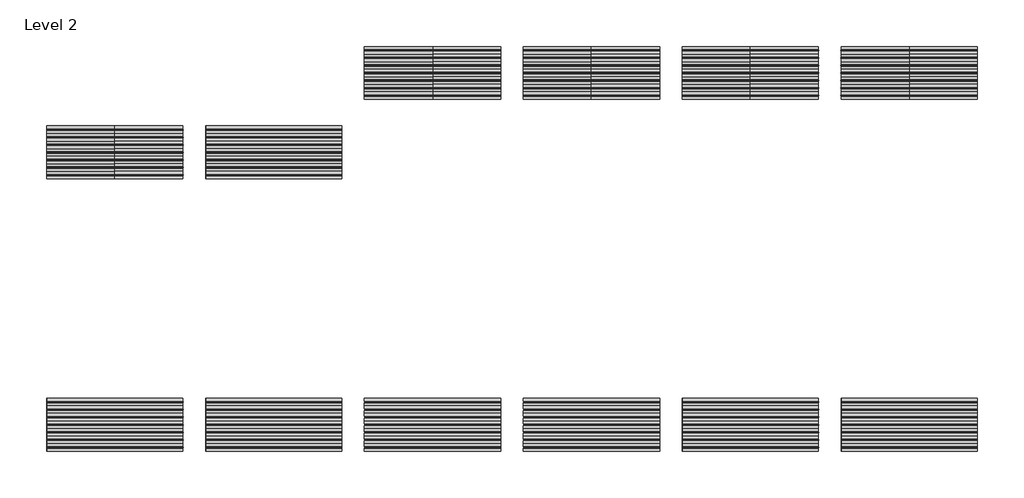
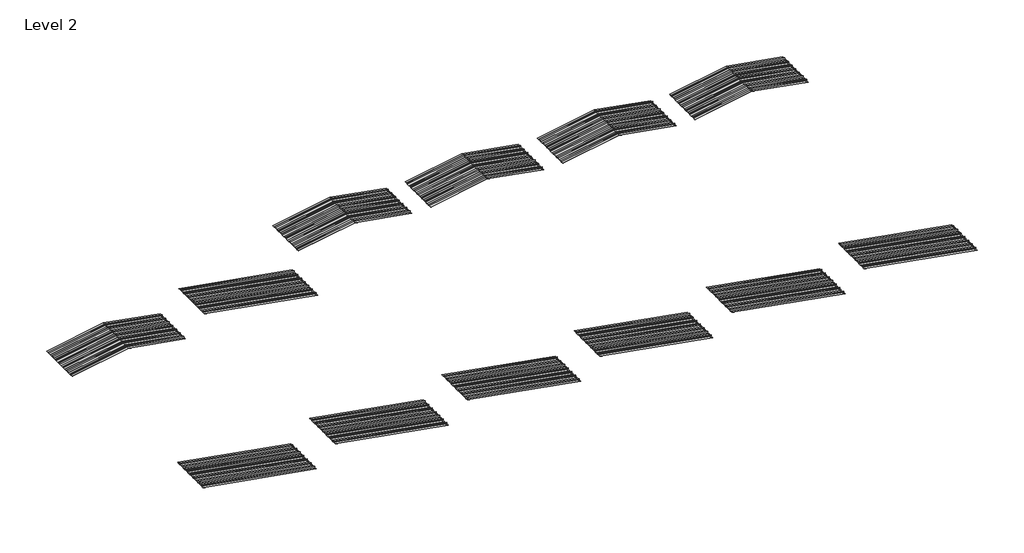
# One storey: 119 members.
"""IFC4 building model written with IfcOpenShell, lengths in millimetres."""

from ifc_helpers import new_model, si_unit, origin, place, context, project, spatial, transform, mapped, element, save
from components import rectangular_mullion_85015836, rectangular_mullion_79018d10

model = new_model("IFC4")

# Units and contexts
model_context = context("Model", 3, world=origin())
ifc_project = project(units=[si_unit("LENGTHUNIT", "METRE", prefix="MILLI")], contexts=[model_context])

# Site, building, storey
site = spatial("IfcSite", under=ifc_project)
building = spatial("IfcBuilding", under=site)
storey = spatial("IfcBuildingStorey", under=building, Name="Level 2", Elevation=4000.0)

# Members
placement = place(None, origin())
rectangular_mullion_shape = rectangular_mullion_85015836(model_context)
element("IfcMember", 1, ObjectType="Rectangular Mullion : Parisienne 1000 - Metal - AZURO 0102", at=placement, inside=storey, context=model_context, shape_type="MappedRepresentation", body=[
    mapped(rectangular_mullion_shape, transform((-24442.9704237, 40272.7785953, 546.6136402), x_axis=(0.0, 1.0, 0.0), y_axis=(-0.1736481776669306, 0.0, -0.9848077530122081), z_axis=(-0.9848077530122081, 0.0, 0.1736481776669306))),
])
element("IfcMember", 2, ObjectType="Rectangular Mullion : Parisienne 1000 - Metal - AZURO 0102", at=placement, inside=storey, context=model_context, shape_type="MappedRepresentation", body=[
    mapped(rectangular_mullion_shape, transform((-24442.9704237, 40605.7785953, 546.6136402), x_axis=(0.0, 1.0, 0.0), y_axis=(-0.1736481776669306, 0.0, -0.9848077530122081), z_axis=(-0.9848077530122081, 0.0, 0.1736481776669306))),
])
element("IfcMember", 3, ObjectType="Rectangular Mullion : Parisienne 1000 - Metal - AZURO 0102", at=placement, inside=storey, context=model_context, shape_type="MappedRepresentation", body=[
    mapped(rectangular_mullion_shape, transform((-24442.9704237, 40938.7785953, 546.6136402), x_axis=(0.0, 1.0, 0.0), y_axis=(-0.17364817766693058, 0.0, -0.9848077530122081), z_axis=(-0.9848077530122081, 0.0, 0.17364817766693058))),
])
element("IfcMember", 4, ObjectType="Rectangular Mullion : Parisienne 1000 - Metal - AZURO 0102", at=placement, inside=storey, context=model_context, shape_type="MappedRepresentation", body=[
    mapped(rectangular_mullion_shape, transform((-24442.9704237, 41271.7785953, 546.6136402), x_axis=(0.0, 1.0, 0.0), y_axis=(-0.17364817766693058, 0.0, -0.9848077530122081), z_axis=(-0.9848077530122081, 0.0, 0.17364817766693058))),
])
element("IfcMember", 5, ObjectType="Rectangular Mullion : Parisienne 1000 - Metal - AZURO 0102", at=placement, inside=storey, context=model_context, shape_type="MappedRepresentation", body=[
    mapped(rectangular_mullion_shape, transform((-24442.9704237, 41604.7785953, 546.6136402), x_axis=(0.0, 1.0, 0.0), y_axis=(-0.17364817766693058, 0.0, -0.9848077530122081), z_axis=(-0.9848077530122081, 0.0, 0.17364817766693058))),
])
element("IfcMember", 6, ObjectType="Rectangular Mullion : Parisienne 1000 - Metal - AZURO 0102", at=placement, inside=storey, context=model_context, shape_type="MappedRepresentation", body=[
    mapped(rectangular_mullion_shape, transform((-24442.9704237, 41937.7785953, 546.6136402), x_axis=(0.0, 1.0, 0.0), y_axis=(-0.17364817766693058, 0.0, -0.9848077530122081), z_axis=(-0.9848077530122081, 0.0, 0.17364817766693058))),
])
element("IfcMember", 7, ObjectType="Rectangular Mullion : Parisienne 1000 - Metal - AZURO 0102", at=placement, inside=storey, context=model_context, shape_type="MappedRepresentation", body=[
    mapped(rectangular_mullion_shape, transform((-24442.9704237, 42270.7785953, 546.6136402), x_axis=(0.0, -1.0, 0.0), y_axis=(0.1736481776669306, 0.0, -0.9848077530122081), z_axis=(0.9848077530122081, 0.0, 0.1736481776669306))),
])
element("IfcMember", 8, ObjectType="Rectangular Mullion : Parisienne 1000 - Metal - AZURO 0102", at=placement, inside=storey, context=model_context, shape_type="MappedRepresentation", body=[
    mapped(rectangular_mullion_shape, transform((-24442.9704237, 41937.7785953, 546.6136402), x_axis=(0.0, -1.0, 0.0), y_axis=(0.1736481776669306, 0.0, -0.9848077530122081), z_axis=(0.9848077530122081, 0.0, 0.1736481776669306))),
])
element("IfcMember", 9, ObjectType="Rectangular Mullion : Parisienne 1000 - Metal - AZURO 0102", at=placement, inside=storey, context=model_context, shape_type="MappedRepresentation", body=[
    mapped(rectangular_mullion_shape, transform((-24442.9704237, 41604.7785953, 546.6136402), x_axis=(0.0, -1.0, 0.0), y_axis=(0.17364817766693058, 0.0, -0.9848077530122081), z_axis=(0.9848077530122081, 0.0, 0.17364817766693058))),
])
element("IfcMember", 10, ObjectType="Rectangular Mullion : Parisienne 1000 - Metal - AZURO 0102", at=placement, inside=storey, context=model_context, shape_type="MappedRepresentation", body=[
    mapped(rectangular_mullion_shape, transform((-24442.9704237, 41271.7785953, 546.6136402), x_axis=(0.0, -1.0, 0.0), y_axis=(0.17364817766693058, 0.0, -0.9848077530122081), z_axis=(0.9848077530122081, 0.0, 0.17364817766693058))),
])
element("IfcMember", 11, ObjectType="Rectangular Mullion : Parisienne 1000 - Metal - AZURO 0102", at=placement, inside=storey, context=model_context, shape_type="MappedRepresentation", body=[
    mapped(rectangular_mullion_shape, transform((-24442.9704237, 40938.7785953, 546.6136402), x_axis=(0.0, -1.0, 0.0), y_axis=(0.17364817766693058, 0.0, -0.9848077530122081), z_axis=(0.9848077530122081, 0.0, 0.17364817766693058))),
])
element("IfcMember", 12, ObjectType="Rectangular Mullion : Parisienne 1000 - Metal - AZURO 0102", at=placement, inside=storey, context=model_context, shape_type="MappedRepresentation", body=[
    mapped(rectangular_mullion_shape, transform((-24442.9704237, 40605.7785953, 546.6136402), x_axis=(0.0, -1.0, 0.0), y_axis=(0.17364817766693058, 0.0, -0.9848077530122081), z_axis=(0.9848077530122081, 0.0, 0.17364817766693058))),
])
element("IfcMember", 13, ObjectType="Rectangular Mullion : Parisienne 1000 - Metal - AZURO 0102", at=placement, inside=storey, context=model_context, shape_type="MappedRepresentation", body=[
    mapped(rectangular_mullion_shape, transform((-24442.9704237, 40272.7785953, 546.6136402), x_axis=(0.0, -1.0, 0.0), y_axis=(0.17364817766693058, 0.0, -0.9848077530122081), z_axis=(0.9848077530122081, 0.0, 0.17364817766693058))),
])
element("IfcMember", 14, ObjectType="Rectangular Mullion : Parisienne 1000 - Metal - AZURO 0102", at=placement, inside=storey, context=model_context, shape_type="MappedRepresentation", body=[
    mapped(rectangular_mullion_shape, transform((-24442.9704237, 42270.7785953, 546.6136402), x_axis=(0.0, 1.0, 0.0), y_axis=(-0.17364817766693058, 0.0, -0.9848077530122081), z_axis=(-0.9848077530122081, 0.0, 0.17364817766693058))),
])
element("IfcMember", 15, ObjectType="Rectangular Mullion : Parisienne 1000 - Metal - AZURO 0102", at=placement, inside=storey, context=model_context, shape_type="MappedRepresentation", body=[
    mapped(rectangular_mullion_shape, transform((-10442.9704237, 43772.7785953, 546.6136402), x_axis=(0.0, 1.0, 0.0), y_axis=(-0.17364817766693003, 0.0, -0.9848077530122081), z_axis=(-0.9848077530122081, 0.0, 0.17364817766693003))),
])
element("IfcMember", 16, ObjectType="Rectangular Mullion : Parisienne 1000 - Metal - AZURO 0102", at=placement, inside=storey, context=model_context, shape_type="MappedRepresentation", body=[
    mapped(rectangular_mullion_shape, transform((-10442.9704237, 44105.7785953, 546.6136402), x_axis=(0.0, 1.0, 0.0), y_axis=(-0.17364817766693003, 0.0, -0.9848077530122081), z_axis=(-0.9848077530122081, 0.0, 0.17364817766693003))),
])
element("IfcMember", 17, ObjectType="Rectangular Mullion : Parisienne 1000 - Metal - AZURO 0102", at=placement, inside=storey, context=model_context, shape_type="MappedRepresentation", body=[
    mapped(rectangular_mullion_shape, transform((-10442.9704237, 44438.7785953, 546.6136402), x_axis=(0.0, 1.0, 0.0), y_axis=(-0.17364817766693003, 0.0, -0.9848077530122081), z_axis=(-0.9848077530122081, 0.0, 0.17364817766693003))),
])
element("IfcMember", 18, ObjectType="Rectangular Mullion : Parisienne 1000 - Metal - AZURO 0102", at=placement, inside=storey, context=model_context, shape_type="MappedRepresentation", body=[
    mapped(rectangular_mullion_shape, transform((-10442.9704237, 44771.7785953, 546.6136402), x_axis=(0.0, 1.0, 0.0), y_axis=(-0.17364817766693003, 0.0, -0.9848077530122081), z_axis=(-0.9848077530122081, 0.0, 0.17364817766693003))),
])
element("IfcMember", 19, ObjectType="Rectangular Mullion : Parisienne 1000 - Metal - AZURO 0102", at=placement, inside=storey, context=model_context, shape_type="MappedRepresentation", body=[
    mapped(rectangular_mullion_shape, transform((-10442.9704237, 45104.7785953, 546.6136402), x_axis=(0.0, 1.0, 0.0), y_axis=(-0.17364817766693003, 0.0, -0.9848077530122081), z_axis=(-0.9848077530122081, 0.0, 0.17364817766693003))),
])
element("IfcMember", 20, ObjectType="Rectangular Mullion : Parisienne 1000 - Metal - AZURO 0102", at=placement, inside=storey, context=model_context, shape_type="MappedRepresentation", body=[
    mapped(rectangular_mullion_shape, transform((-10442.9704237, 45437.7785953, 546.6136402), x_axis=(0.0, 1.0, 0.0), y_axis=(-0.17364817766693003, 0.0, -0.9848077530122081), z_axis=(-0.9848077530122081, 0.0, 0.17364817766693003))),
])
element("IfcMember", 21, ObjectType="Rectangular Mullion : Parisienne 1000 - Metal - AZURO 0102", at=placement, inside=storey, context=model_context, shape_type="MappedRepresentation", body=[
    mapped(rectangular_mullion_shape, transform((-10442.9704237, 45770.7785953, 546.6136402), x_axis=(0.0, -1.0, 0.0), y_axis=(0.1736481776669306, 0.0, -0.984807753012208), z_axis=(0.984807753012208, 0.0, 0.1736481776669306))),
])
element("IfcMember", 22, ObjectType="Rectangular Mullion : Parisienne 1000 - Metal - AZURO 0102", at=placement, inside=storey, context=model_context, shape_type="MappedRepresentation", body=[
    mapped(rectangular_mullion_shape, transform((-10442.9704237, 45437.7785953, 546.6136402), x_axis=(0.0, -1.0, 0.0), y_axis=(0.1736481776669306, 0.0, -0.984807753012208), z_axis=(0.984807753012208, 0.0, 0.1736481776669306))),
])
element("IfcMember", 23, ObjectType="Rectangular Mullion : Parisienne 1000 - Metal - AZURO 0102", at=placement, inside=storey, context=model_context, shape_type="MappedRepresentation", body=[
    mapped(rectangular_mullion_shape, transform((-10442.9704237, 45104.7785953, 546.6136402), x_axis=(0.0, -1.0, 0.0), y_axis=(0.1736481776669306, 0.0, -0.984807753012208), z_axis=(0.984807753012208, 0.0, 0.1736481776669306))),
])
element("IfcMember", 24, ObjectType="Rectangular Mullion : Parisienne 1000 - Metal - AZURO 0102", at=placement, inside=storey, context=model_context, shape_type="MappedRepresentation", body=[
    mapped(rectangular_mullion_shape, transform((-10442.9704237, 44771.7785953, 546.6136402), x_axis=(0.0, -1.0, 0.0), y_axis=(0.1736481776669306, 0.0, -0.984807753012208), z_axis=(0.984807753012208, 0.0, 0.1736481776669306))),
])
element("IfcMember", 25, ObjectType="Rectangular Mullion : Parisienne 1000 - Metal - AZURO 0102", at=placement, inside=storey, context=model_context, shape_type="MappedRepresentation", body=[
    mapped(rectangular_mullion_shape, transform((-10442.9704237, 44438.7785953, 546.6136402), x_axis=(0.0, -1.0, 0.0), y_axis=(0.17364817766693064, 0.0, -0.984807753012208), z_axis=(0.984807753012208, 0.0, 0.17364817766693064))),
])
element("IfcMember", 26, ObjectType="Rectangular Mullion : Parisienne 1000 - Metal - AZURO 0102", at=placement, inside=storey, context=model_context, shape_type="MappedRepresentation", body=[
    mapped(rectangular_mullion_shape, transform((-10442.9704237, 44105.7785953, 546.6136402), x_axis=(0.0, -1.0, 0.0), y_axis=(0.1736481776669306, 0.0, -0.984807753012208), z_axis=(0.984807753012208, 0.0, 0.1736481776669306))),
])
element("IfcMember", 27, ObjectType="Rectangular Mullion : Parisienne 1000 - Metal - AZURO 0102", at=placement, inside=storey, context=model_context, shape_type="MappedRepresentation", body=[
    mapped(rectangular_mullion_shape, transform((-10442.9704237, 43772.7785953, 546.6136402), x_axis=(0.0, -1.0, 0.0), y_axis=(0.1736481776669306, 0.0, -0.984807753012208), z_axis=(0.984807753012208, 0.0, 0.1736481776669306))),
])
element("IfcMember", 28, ObjectType="Rectangular Mullion : Parisienne 1000 - Metal - AZURO 0102", at=placement, inside=storey, context=model_context, shape_type="MappedRepresentation", body=[
    mapped(rectangular_mullion_shape, transform((-10442.9704237, 45770.7785953, 546.6136402), x_axis=(0.0, 1.0, 0.0), y_axis=(-0.17364817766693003, 0.0, -0.9848077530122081), z_axis=(-0.9848077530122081, 0.0, 0.17364817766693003))),
])
element("IfcMember", 29, ObjectType="Rectangular Mullion : Parisienne 1000 - Metal - AZURO 0102", at=placement, inside=storey, context=model_context, shape_type="MappedRepresentation", body=[
    mapped(rectangular_mullion_shape, transform((-3442.9704237, 43772.7785953, 546.6136402), x_axis=(0.0, 1.0, 0.0), y_axis=(-0.1736481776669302, 0.0, -0.9848077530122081), z_axis=(-0.984807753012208, 0.0, 0.17364817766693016))),
])
element("IfcMember", 30, ObjectType="Rectangular Mullion : Parisienne 1000 - Metal - AZURO 0102", at=placement, inside=storey, context=model_context, shape_type="MappedRepresentation", body=[
    mapped(rectangular_mullion_shape, transform((-3442.9704237, 44105.7785953, 546.6136402), x_axis=(0.0, 1.0, 0.0), y_axis=(-0.1736481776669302, 0.0, -0.9848077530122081), z_axis=(-0.984807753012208, 0.0, 0.17364817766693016))),
])
element("IfcMember", 31, ObjectType="Rectangular Mullion : Parisienne 1000 - Metal - AZURO 0102", at=placement, inside=storey, context=model_context, shape_type="MappedRepresentation", body=[
    mapped(rectangular_mullion_shape, transform((-3442.9704237, 44438.7785953, 546.6136402), x_axis=(0.0, 1.0, 0.0), y_axis=(-0.1736481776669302, 0.0, -0.9848077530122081), z_axis=(-0.984807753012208, 0.0, 0.17364817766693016))),
])
element("IfcMember", 32, ObjectType="Rectangular Mullion : Parisienne 1000 - Metal - AZURO 0102", at=placement, inside=storey, context=model_context, shape_type="MappedRepresentation", body=[
    mapped(rectangular_mullion_shape, transform((-3442.9704237, 44771.7785953, 546.6136402), x_axis=(0.0, 1.0, 0.0), y_axis=(-0.1736481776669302, 0.0, -0.9848077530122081), z_axis=(-0.984807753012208, 0.0, 0.17364817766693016))),
])
element("IfcMember", 33, ObjectType="Rectangular Mullion : Parisienne 1000 - Metal - AZURO 0102", at=placement, inside=storey, context=model_context, shape_type="MappedRepresentation", body=[
    mapped(rectangular_mullion_shape, transform((-3442.9704237, 45104.7785953, 546.6136402), x_axis=(0.0, 1.0, 0.0), y_axis=(-0.1736481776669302, 0.0, -0.9848077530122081), z_axis=(-0.984807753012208, 0.0, 0.17364817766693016))),
])
element("IfcMember", 34, ObjectType="Rectangular Mullion : Parisienne 1000 - Metal - AZURO 0102", at=placement, inside=storey, context=model_context, shape_type="MappedRepresentation", body=[
    mapped(rectangular_mullion_shape, transform((-3442.9704237, 45437.7785953, 546.6136402), x_axis=(0.0, 1.0, 0.0), y_axis=(-0.1736481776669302, 0.0, -0.9848077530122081), z_axis=(-0.984807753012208, 0.0, 0.17364817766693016))),
])
element("IfcMember", 35, ObjectType="Rectangular Mullion : Parisienne 1000 - Metal - AZURO 0102", at=placement, inside=storey, context=model_context, shape_type="MappedRepresentation", body=[
    mapped(rectangular_mullion_shape, transform((-3442.9704237, 45770.7785953, 546.6136402), x_axis=(0.0, -1.0, 0.0), y_axis=(0.17364817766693, 0.0, -0.9848077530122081), z_axis=(0.9848077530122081, 0.0, 0.17364817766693))),
])
element("IfcMember", 36, ObjectType="Rectangular Mullion : Parisienne 1000 - Metal - AZURO 0102", at=placement, inside=storey, context=model_context, shape_type="MappedRepresentation", body=[
    mapped(rectangular_mullion_shape, transform((-3442.9704237, 45437.7785953, 546.6136402), x_axis=(0.0, -1.0, 0.0), y_axis=(0.17364817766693, 0.0, -0.9848077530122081), z_axis=(0.9848077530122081, 0.0, 0.17364817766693))),
])
element("IfcMember", 37, ObjectType="Rectangular Mullion : Parisienne 1000 - Metal - AZURO 0102", at=placement, inside=storey, context=model_context, shape_type="MappedRepresentation", body=[
    mapped(rectangular_mullion_shape, transform((-3442.9704237, 45104.7785953, 546.6136402), x_axis=(0.0, -1.0, 0.0), y_axis=(0.17364817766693, 0.0, -0.9848077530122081), z_axis=(0.9848077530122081, 0.0, 0.17364817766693))),
])
element("IfcMember", 38, ObjectType="Rectangular Mullion : Parisienne 1000 - Metal - AZURO 0102", at=placement, inside=storey, context=model_context, shape_type="MappedRepresentation", body=[
    mapped(rectangular_mullion_shape, transform((-3442.9704237, 44771.7785953, 546.6136402), x_axis=(0.0, -1.0, 0.0), y_axis=(0.17364817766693, 0.0, -0.9848077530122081), z_axis=(0.9848077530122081, 0.0, 0.17364817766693))),
])
element("IfcMember", 39, ObjectType="Rectangular Mullion : Parisienne 1000 - Metal - AZURO 0102", at=placement, inside=storey, context=model_context, shape_type="MappedRepresentation", body=[
    mapped(rectangular_mullion_shape, transform((-3442.9704237, 44438.7785953, 546.6136402), x_axis=(0.0, -1.0, 0.0), y_axis=(0.17364817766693, 0.0, -0.9848077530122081), z_axis=(0.9848077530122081, 0.0, 0.17364817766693))),
])
element("IfcMember", 40, ObjectType="Rectangular Mullion : Parisienne 1000 - Metal - AZURO 0102", at=placement, inside=storey, context=model_context, shape_type="MappedRepresentation", body=[
    mapped(rectangular_mullion_shape, transform((-3442.9704237, 44105.7785953, 546.6136402), x_axis=(0.0, -1.0, 0.0), y_axis=(0.17364817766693, 0.0, -0.9848077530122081), z_axis=(0.9848077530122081, 0.0, 0.17364817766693))),
])
element("IfcMember", 41, ObjectType="Rectangular Mullion : Parisienne 1000 - Metal - AZURO 0102", at=placement, inside=storey, context=model_context, shape_type="MappedRepresentation", body=[
    mapped(rectangular_mullion_shape, transform((-3442.9704237, 43772.7785953, 546.6136402), x_axis=(0.0, -1.0, 0.0), y_axis=(0.17364817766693, 0.0, -0.9848077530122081), z_axis=(0.9848077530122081, 0.0, 0.17364817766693))),
])
element("IfcMember", 42, ObjectType="Rectangular Mullion : Parisienne 1000 - Metal - AZURO 0102", at=placement, inside=storey, context=model_context, shape_type="MappedRepresentation", body=[
    mapped(rectangular_mullion_shape, transform((-3442.9704237, 45770.7785953, 546.6136402), x_axis=(0.0, 1.0, 0.0), y_axis=(-0.1736481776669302, 0.0, -0.9848077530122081), z_axis=(-0.984807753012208, 0.0, 0.17364817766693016))),
])
element("IfcMember", 43, ObjectType="Rectangular Mullion : Parisienne 1000 - Metal - AZURO 0102", at=placement, inside=storey, context=model_context, shape_type="MappedRepresentation", body=[
    mapped(rectangular_mullion_shape, transform((3557.0295763, 43772.7785953, 546.6136402), x_axis=(0.0, 1.0, 0.0), y_axis=(-0.17364817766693, 0.0, -0.9848077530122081), z_axis=(-0.9848077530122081, 0.0, 0.17364817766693))),
])
element("IfcMember", 44, ObjectType="Rectangular Mullion : Parisienne 1000 - Metal - AZURO 0102", at=placement, inside=storey, context=model_context, shape_type="MappedRepresentation", body=[
    mapped(rectangular_mullion_shape, transform((3557.0295763, 44105.7785953, 546.6136402), x_axis=(0.0, 1.0, 0.0), y_axis=(-0.17364817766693, 0.0, -0.9848077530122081), z_axis=(-0.9848077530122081, 0.0, 0.17364817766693))),
])
element("IfcMember", 45, ObjectType="Rectangular Mullion : Parisienne 1000 - Metal - AZURO 0102", at=placement, inside=storey, context=model_context, shape_type="MappedRepresentation", body=[
    mapped(rectangular_mullion_shape, transform((3557.0295763, 44438.7785953, 546.6136402), x_axis=(0.0, 1.0, 0.0), y_axis=(-0.17364817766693, 0.0, -0.9848077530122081), z_axis=(-0.9848077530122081, 0.0, 0.17364817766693))),
])
element("IfcMember", 46, ObjectType="Rectangular Mullion : Parisienne 1000 - Metal - AZURO 0102", at=placement, inside=storey, context=model_context, shape_type="MappedRepresentation", body=[
    mapped(rectangular_mullion_shape, transform((3557.0295763, 44771.7785953, 546.6136402), x_axis=(0.0, 1.0, 0.0), y_axis=(-0.17364817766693, 0.0, -0.9848077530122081), z_axis=(-0.9848077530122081, 0.0, 0.17364817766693))),
])
element("IfcMember", 47, ObjectType="Rectangular Mullion : Parisienne 1000 - Metal - AZURO 0102", at=placement, inside=storey, context=model_context, shape_type="MappedRepresentation", body=[
    mapped(rectangular_mullion_shape, transform((3557.0295763, 45104.7785953, 546.6136402), x_axis=(0.0, 1.0, 0.0), y_axis=(-0.17364817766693, 0.0, -0.9848077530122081), z_axis=(-0.9848077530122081, 0.0, 0.17364817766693))),
])
element("IfcMember", 48, ObjectType="Rectangular Mullion : Parisienne 1000 - Metal - AZURO 0102", at=placement, inside=storey, context=model_context, shape_type="MappedRepresentation", body=[
    mapped(rectangular_mullion_shape, transform((3557.0295763, 45437.7785953, 546.6136402), x_axis=(0.0, 1.0, 0.0), y_axis=(-0.17364817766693, 0.0, -0.9848077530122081), z_axis=(-0.9848077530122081, 0.0, 0.17364817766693))),
])
element("IfcMember", 49, ObjectType="Rectangular Mullion : Parisienne 1000 - Metal - AZURO 0102", at=placement, inside=storey, context=model_context, shape_type="MappedRepresentation", body=[
    mapped(rectangular_mullion_shape, transform((3557.0295763, 45770.7785953, 546.6136402), x_axis=(0.0, -1.0, 0.0), y_axis=(0.1736481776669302, 0.0, -0.9848077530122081), z_axis=(0.984807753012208, 0.0, 0.17364817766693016))),
])
element("IfcMember", 50, ObjectType="Rectangular Mullion : Parisienne 1000 - Metal - AZURO 0102", at=placement, inside=storey, context=model_context, shape_type="MappedRepresentation", body=[
    mapped(rectangular_mullion_shape, transform((3557.0295763, 45437.7785953, 546.6136402), x_axis=(0.0, -1.0, 0.0), y_axis=(0.1736481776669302, 0.0, -0.9848077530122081), z_axis=(0.984807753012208, 0.0, 0.17364817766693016))),
])
element("IfcMember", 51, ObjectType="Rectangular Mullion : Parisienne 1000 - Metal - AZURO 0102", at=placement, inside=storey, context=model_context, shape_type="MappedRepresentation", body=[
    mapped(rectangular_mullion_shape, transform((3557.0295763, 45104.7785953, 546.6136402), x_axis=(0.0, -1.0, 0.0), y_axis=(0.1736481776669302, 0.0, -0.9848077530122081), z_axis=(0.984807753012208, 0.0, 0.17364817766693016))),
])
element("IfcMember", 52, ObjectType="Rectangular Mullion : Parisienne 1000 - Metal - AZURO 0102", at=placement, inside=storey, context=model_context, shape_type="MappedRepresentation", body=[
    mapped(rectangular_mullion_shape, transform((3557.0295763, 44771.7785953, 546.6136402), x_axis=(0.0, -1.0, 0.0), y_axis=(0.1736481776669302, 0.0, -0.9848077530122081), z_axis=(0.984807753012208, 0.0, 0.17364817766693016))),
])
element("IfcMember", 53, ObjectType="Rectangular Mullion : Parisienne 1000 - Metal - AZURO 0102", at=placement, inside=storey, context=model_context, shape_type="MappedRepresentation", body=[
    mapped(rectangular_mullion_shape, transform((3557.0295763, 44438.7785953, 546.6136402), x_axis=(0.0, -1.0, 0.0), y_axis=(0.1736481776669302, 0.0, -0.9848077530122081), z_axis=(0.984807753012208, 0.0, 0.17364817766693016))),
])
element("IfcMember", 54, ObjectType="Rectangular Mullion : Parisienne 1000 - Metal - AZURO 0102", at=placement, inside=storey, context=model_context, shape_type="MappedRepresentation", body=[
    mapped(rectangular_mullion_shape, transform((3557.0295763, 44105.7785953, 546.6136402), x_axis=(0.0, -1.0, 0.0), y_axis=(0.1736481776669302, 0.0, -0.9848077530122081), z_axis=(0.984807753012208, 0.0, 0.17364817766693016))),
])
element("IfcMember", 55, ObjectType="Rectangular Mullion : Parisienne 1000 - Metal - AZURO 0102", at=placement, inside=storey, context=model_context, shape_type="MappedRepresentation", body=[
    mapped(rectangular_mullion_shape, transform((3557.0295763, 43772.7785953, 546.6136402), x_axis=(0.0, -1.0, 0.0), y_axis=(0.1736481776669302, 0.0, -0.9848077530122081), z_axis=(0.984807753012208, 0.0, 0.17364817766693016))),
])
element("IfcMember", 56, ObjectType="Rectangular Mullion : Parisienne 1000 - Metal - AZURO 0102", at=placement, inside=storey, context=model_context, shape_type="MappedRepresentation", body=[
    mapped(rectangular_mullion_shape, transform((3557.0295763, 45770.7785953, 546.6136402), x_axis=(0.0, 1.0, 0.0), y_axis=(-0.17364817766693, 0.0, -0.9848077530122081), z_axis=(-0.9848077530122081, 0.0, 0.17364817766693))),
])
element("IfcMember", 57, ObjectType="Rectangular Mullion : Parisienne 1000 - Metal - AZURO 0102", at=placement, inside=storey, context=model_context, shape_type="MappedRepresentation", body=[
    mapped(rectangular_mullion_shape, transform((10557.0295763, 43772.7785953, 546.6136402), x_axis=(0.0, 1.0, 0.0), y_axis=(-0.1736481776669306, 0.0, -0.984807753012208), z_axis=(-0.984807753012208, 0.0, 0.1736481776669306))),
])
element("IfcMember", 58, ObjectType="Rectangular Mullion : Parisienne 1000 - Metal - AZURO 0102", at=placement, inside=storey, context=model_context, shape_type="MappedRepresentation", body=[
    mapped(rectangular_mullion_shape, transform((10557.0295763, 44105.7785953, 546.6136402), x_axis=(0.0, 1.0, 0.0), y_axis=(-0.1736481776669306, 0.0, -0.984807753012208), z_axis=(-0.984807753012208, 0.0, 0.1736481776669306))),
])
element("IfcMember", 59, ObjectType="Rectangular Mullion : Parisienne 1000 - Metal - AZURO 0102", at=placement, inside=storey, context=model_context, shape_type="MappedRepresentation", body=[
    mapped(rectangular_mullion_shape, transform((10557.0295763, 44438.7785953, 546.6136402), x_axis=(0.0, 1.0, 0.0), y_axis=(-0.1736481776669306, 0.0, -0.984807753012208), z_axis=(-0.984807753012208, 0.0, 0.1736481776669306))),
])
element("IfcMember", 60, ObjectType="Rectangular Mullion : Parisienne 1000 - Metal - AZURO 0102", at=placement, inside=storey, context=model_context, shape_type="MappedRepresentation", body=[
    mapped(rectangular_mullion_shape, transform((10557.0295763, 44771.7785953, 546.6136402), x_axis=(0.0, 1.0, 0.0), y_axis=(-0.1736481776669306, 0.0, -0.984807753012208), z_axis=(-0.984807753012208, 0.0, 0.1736481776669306))),
])
element("IfcMember", 61, ObjectType="Rectangular Mullion : Parisienne 1000 - Metal - AZURO 0102", at=placement, inside=storey, context=model_context, shape_type="MappedRepresentation", body=[
    mapped(rectangular_mullion_shape, transform((10557.0295763, 45104.7785953, 546.6136402), x_axis=(0.0, 1.0, 0.0), y_axis=(-0.17364817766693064, 0.0, -0.984807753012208), z_axis=(-0.984807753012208, 0.0, 0.17364817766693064))),
])
element("IfcMember", 62, ObjectType="Rectangular Mullion : Parisienne 1000 - Metal - AZURO 0102", at=placement, inside=storey, context=model_context, shape_type="MappedRepresentation", body=[
    mapped(rectangular_mullion_shape, transform((10557.0295763, 45437.7785953, 546.6136402), x_axis=(0.0, 1.0, 0.0), y_axis=(-0.17364817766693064, 0.0, -0.984807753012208), z_axis=(-0.984807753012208, 0.0, 0.17364817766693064))),
])
element("IfcMember", 63, ObjectType="Rectangular Mullion : Parisienne 1000 - Metal - AZURO 0102", at=placement, inside=storey, context=model_context, shape_type="MappedRepresentation", body=[
    mapped(rectangular_mullion_shape, transform((10557.0295763, 45770.7785953, 546.6136402), x_axis=(0.0, -1.0, 0.0), y_axis=(0.17364817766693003, 0.0, -0.9848077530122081), z_axis=(0.9848077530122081, 0.0, 0.17364817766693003))),
])
element("IfcMember", 64, ObjectType="Rectangular Mullion : Parisienne 1000 - Metal - AZURO 0102", at=placement, inside=storey, context=model_context, shape_type="MappedRepresentation", body=[
    mapped(rectangular_mullion_shape, transform((10557.0295763, 45437.7785953, 546.6136402), x_axis=(0.0, -1.0, 0.0), y_axis=(0.17364817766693, 0.0, -0.9848077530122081), z_axis=(0.9848077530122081, 0.0, 0.17364817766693))),
])
element("IfcMember", 65, ObjectType="Rectangular Mullion : Parisienne 1000 - Metal - AZURO 0102", at=placement, inside=storey, context=model_context, shape_type="MappedRepresentation", body=[
    mapped(rectangular_mullion_shape, transform((10557.0295763, 45104.7785953, 546.6136402), x_axis=(0.0, -1.0, 0.0), y_axis=(0.17364817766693, 0.0, -0.9848077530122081), z_axis=(0.9848077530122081, 0.0, 0.17364817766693))),
])
element("IfcMember", 66, ObjectType="Rectangular Mullion : Parisienne 1000 - Metal - AZURO 0102", at=placement, inside=storey, context=model_context, shape_type="MappedRepresentation", body=[
    mapped(rectangular_mullion_shape, transform((10557.0295763, 44771.7785953, 546.6136402), x_axis=(0.0, -1.0, 0.0), y_axis=(0.17364817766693, 0.0, -0.9848077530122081), z_axis=(0.9848077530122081, 0.0, 0.17364817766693))),
])
element("IfcMember", 67, ObjectType="Rectangular Mullion : Parisienne 1000 - Metal - AZURO 0102", at=placement, inside=storey, context=model_context, shape_type="MappedRepresentation", body=[
    mapped(rectangular_mullion_shape, transform((10557.0295763, 44438.7785953, 546.6136402), x_axis=(0.0, -1.0, 0.0), y_axis=(0.17364817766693, 0.0, -0.9848077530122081), z_axis=(0.9848077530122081, 0.0, 0.17364817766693))),
])
element("IfcMember", 68, ObjectType="Rectangular Mullion : Parisienne 1000 - Metal - AZURO 0102", at=placement, inside=storey, context=model_context, shape_type="MappedRepresentation", body=[
    mapped(rectangular_mullion_shape, transform((10557.0295763, 44105.7785953, 546.6136402), x_axis=(0.0, -1.0, 0.0), y_axis=(0.17364817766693, 0.0, -0.9848077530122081), z_axis=(0.9848077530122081, 0.0, 0.17364817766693))),
])
element("IfcMember", 69, ObjectType="Rectangular Mullion : Parisienne 1000 - Metal - AZURO 0102", at=placement, inside=storey, context=model_context, shape_type="MappedRepresentation", body=[
    mapped(rectangular_mullion_shape, transform((10557.0295763, 43772.7785953, 546.6136402), x_axis=(0.0, -1.0, 0.0), y_axis=(0.17364817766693, 0.0, -0.9848077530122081), z_axis=(0.9848077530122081, 0.0, 0.17364817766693))),
])
element("IfcMember", 70, ObjectType="Rectangular Mullion : Parisienne 1000 - Metal - AZURO 0102", at=placement, inside=storey, context=model_context, shape_type="MappedRepresentation", body=[
    mapped(rectangular_mullion_shape, transform((10557.0295763, 45770.7785953, 546.6136402), x_axis=(0.0, 1.0, 0.0), y_axis=(-0.17364817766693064, 0.0, -0.984807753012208), z_axis=(-0.984807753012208, 0.0, 0.17364817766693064))),
])
rectangular_mullion_2_shape = rectangular_mullion_79018d10(model_context)
element("IfcMember", 71, ObjectType="Rectangular Mullion : Parisienne 1000 - Metal - AZURO 0102", at=placement, inside=storey, context=model_context, shape_type="MappedRepresentation", body=[
    mapped(rectangular_mullion_2_shape, transform((-20442.9704237, 40272.7785953, 1075.5945823), x_axis=(0.0, 1.0, 0.0), y_axis=(-0.17364817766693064, 0.0, -0.984807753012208), z_axis=(-0.9848077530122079, 0.0, 0.1736481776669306))),
])
element("IfcMember", 72, ObjectType="Rectangular Mullion : Parisienne 1000 - Metal - AZURO 0102", at=placement, inside=storey, context=model_context, shape_type="MappedRepresentation", body=[
    mapped(rectangular_mullion_2_shape, transform((-20442.9704237, 40605.7785953, 1075.5945823), x_axis=(0.0, 1.0, 0.0), y_axis=(-0.17364817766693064, 0.0, -0.984807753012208), z_axis=(-0.9848077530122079, 0.0, 0.1736481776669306))),
])
element("IfcMember", 73, ObjectType="Rectangular Mullion : Parisienne 1000 - Metal - AZURO 0102", at=placement, inside=storey, context=model_context, shape_type="MappedRepresentation", body=[
    mapped(rectangular_mullion_2_shape, transform((-20442.9704237, 40938.7785953, 1075.5945823), x_axis=(0.0, 1.0, 0.0), y_axis=(-0.1736481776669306, 0.0, -0.9848077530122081), z_axis=(-0.9848077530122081, 0.0, 0.1736481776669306))),
])
element("IfcMember", 74, ObjectType="Rectangular Mullion : Parisienne 1000 - Metal - AZURO 0102", at=placement, inside=storey, context=model_context, shape_type="MappedRepresentation", body=[
    mapped(rectangular_mullion_2_shape, transform((-20442.9704237, 41271.7785953, 1075.5945823), x_axis=(0.0, 1.0, 0.0), y_axis=(-0.1736481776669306, 0.0, -0.9848077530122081), z_axis=(-0.9848077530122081, 0.0, 0.1736481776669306))),
])
element("IfcMember", 75, ObjectType="Rectangular Mullion : Parisienne 1000 - Metal - AZURO 0102", at=placement, inside=storey, context=model_context, shape_type="MappedRepresentation", body=[
    mapped(rectangular_mullion_2_shape, transform((-20442.9704237, 41604.7785953, 1075.5945823), x_axis=(0.0, 1.0, 0.0), y_axis=(-0.1736481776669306, 0.0, -0.9848077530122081), z_axis=(-0.9848077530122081, 0.0, 0.1736481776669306))),
])
element("IfcMember", 76, ObjectType="Rectangular Mullion : Parisienne 1000 - Metal - AZURO 0102", at=placement, inside=storey, context=model_context, shape_type="MappedRepresentation", body=[
    mapped(rectangular_mullion_2_shape, transform((-20442.9704237, 41937.7785953, 1075.5945823), x_axis=(0.0, 1.0, 0.0), y_axis=(-0.1736481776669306, 0.0, -0.9848077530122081), z_axis=(-0.9848077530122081, 0.0, 0.1736481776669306))),
])
element("IfcMember", 77, ObjectType="Rectangular Mullion : Parisienne 1000 - Metal - AZURO 0102", at=placement, inside=storey, context=model_context, shape_type="MappedRepresentation", body=[
    mapped(rectangular_mullion_2_shape, transform((-20442.9704237, 42270.7785953, 1075.5945823), x_axis=(0.0, 1.0, 0.0), y_axis=(-0.1736481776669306, 0.0, -0.9848077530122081), z_axis=(-0.9848077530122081, 0.0, 0.1736481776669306))),
])
element("IfcMember", 78, ObjectType="Rectangular Mullion : Parisienne 1000 - Metal - AZURO 0102", at=placement, inside=storey, context=model_context, shape_type="MappedRepresentation", body=[
    mapped(rectangular_mullion_2_shape, transform((-27442.9704237, 28272.7785953, 1075.5945823), x_axis=(0.0, 1.0, 0.0), y_axis=(-0.17364817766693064, 0.0, -0.984807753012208), z_axis=(-0.9848077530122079, 0.0, 0.1736481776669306))),
])
element("IfcMember", 79, ObjectType="Rectangular Mullion : Parisienne 1000 - Metal - AZURO 0102", at=placement, inside=storey, context=model_context, shape_type="MappedRepresentation", body=[
    mapped(rectangular_mullion_2_shape, transform((-27442.9704237, 28605.7785953, 1075.5945823), x_axis=(0.0, 1.0, 0.0), y_axis=(-0.17364817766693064, 0.0, -0.984807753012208), z_axis=(-0.9848077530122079, 0.0, 0.1736481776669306))),
])
element("IfcMember", 80, ObjectType="Rectangular Mullion : Parisienne 1000 - Metal - AZURO 0102", at=placement, inside=storey, context=model_context, shape_type="MappedRepresentation", body=[
    mapped(rectangular_mullion_2_shape, transform((-27442.9704237, 28938.7785953, 1075.5945823), x_axis=(0.0, 1.0, 0.0), y_axis=(-0.1736481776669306, 0.0, -0.9848077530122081), z_axis=(-0.9848077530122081, 0.0, 0.1736481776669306))),
])
element("IfcMember", 81, ObjectType="Rectangular Mullion : Parisienne 1000 - Metal - AZURO 0102", at=placement, inside=storey, context=model_context, shape_type="MappedRepresentation", body=[
    mapped(rectangular_mullion_2_shape, transform((-27442.9704237, 29271.7785953, 1075.5945823), x_axis=(0.0, 1.0, 0.0), y_axis=(-0.1736481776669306, 0.0, -0.9848077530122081), z_axis=(-0.9848077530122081, 0.0, 0.1736481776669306))),
])
element("IfcMember", 82, ObjectType="Rectangular Mullion : Parisienne 1000 - Metal - AZURO 0102", at=placement, inside=storey, context=model_context, shape_type="MappedRepresentation", body=[
    mapped(rectangular_mullion_2_shape, transform((-27442.9704237, 29604.7785953, 1075.5945823), x_axis=(0.0, 1.0, 0.0), y_axis=(-0.1736481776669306, 0.0, -0.9848077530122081), z_axis=(-0.9848077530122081, 0.0, 0.1736481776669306))),
])
element("IfcMember", 83, ObjectType="Rectangular Mullion : Parisienne 1000 - Metal - AZURO 0102", at=placement, inside=storey, context=model_context, shape_type="MappedRepresentation", body=[
    mapped(rectangular_mullion_2_shape, transform((-27442.9704237, 29937.7785953, 1075.5945823), x_axis=(0.0, 1.0, 0.0), y_axis=(-0.1736481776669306, 0.0, -0.9848077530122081), z_axis=(-0.9848077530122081, 0.0, 0.1736481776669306))),
])
element("IfcMember", 84, ObjectType="Rectangular Mullion : Parisienne 1000 - Metal - AZURO 0102", at=placement, inside=storey, context=model_context, shape_type="MappedRepresentation", body=[
    mapped(rectangular_mullion_2_shape, transform((-27442.9704237, 30270.7785953, 1075.5945823), x_axis=(0.0, 1.0, 0.0), y_axis=(-0.1736481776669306, 0.0, -0.9848077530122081), z_axis=(-0.9848077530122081, 0.0, 0.1736481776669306))),
])
element("IfcMember", 85, ObjectType="Rectangular Mullion : Parisienne 1000 - Metal - BIANCO 0105", at=placement, inside=storey, context=model_context, shape_type="MappedRepresentation", body=[
    mapped(rectangular_mullion_2_shape, transform((-20442.9704237, 28272.7785953, 1075.5945823), x_axis=(0.0, 1.0, 0.0), y_axis=(-0.17364817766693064, 0.0, -0.984807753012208), z_axis=(-0.9848077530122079, 0.0, 0.1736481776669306))),
])
element("IfcMember", 86, ObjectType="Rectangular Mullion : Parisienne 1000 - Metal - BIANCO 0105", at=placement, inside=storey, context=model_context, shape_type="MappedRepresentation", body=[
    mapped(rectangular_mullion_2_shape, transform((-20442.9704237, 28605.7785953, 1075.5945823), x_axis=(0.0, 1.0, 0.0), y_axis=(-0.17364817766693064, 0.0, -0.984807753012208), z_axis=(-0.9848077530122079, 0.0, 0.1736481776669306))),
])
element("IfcMember", 87, ObjectType="Rectangular Mullion : Parisienne 1000 - Metal - BIANCO 0105", at=placement, inside=storey, context=model_context, shape_type="MappedRepresentation", body=[
    mapped(rectangular_mullion_2_shape, transform((-20442.9704237, 28938.7785953, 1075.5945823), x_axis=(0.0, 1.0, 0.0), y_axis=(-0.1736481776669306, 0.0, -0.9848077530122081), z_axis=(-0.9848077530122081, 0.0, 0.1736481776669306))),
])
element("IfcMember", 88, ObjectType="Rectangular Mullion : Parisienne 1000 - Metal - BIANCO 0105", at=placement, inside=storey, context=model_context, shape_type="MappedRepresentation", body=[
    mapped(rectangular_mullion_2_shape, transform((-20442.9704237, 29271.7785953, 1075.5945823), x_axis=(0.0, 1.0, 0.0), y_axis=(-0.1736481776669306, 0.0, -0.9848077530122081), z_axis=(-0.9848077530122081, 0.0, 0.1736481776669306))),
])
element("IfcMember", 89, ObjectType="Rectangular Mullion : Parisienne 1000 - Metal - BIANCO 0105", at=placement, inside=storey, context=model_context, shape_type="MappedRepresentation", body=[
    mapped(rectangular_mullion_2_shape, transform((-20442.9704237, 29604.7785953, 1075.5945823), x_axis=(0.0, 1.0, 0.0), y_axis=(-0.1736481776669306, 0.0, -0.9848077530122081), z_axis=(-0.9848077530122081, 0.0, 0.1736481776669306))),
])
element("IfcMember", 90, ObjectType="Rectangular Mullion : Parisienne 1000 - Metal - BIANCO 0105", at=placement, inside=storey, context=model_context, shape_type="MappedRepresentation", body=[
    mapped(rectangular_mullion_2_shape, transform((-20442.9704237, 29937.7785953, 1075.5945823), x_axis=(0.0, 1.0, 0.0), y_axis=(-0.1736481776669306, 0.0, -0.9848077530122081), z_axis=(-0.9848077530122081, 0.0, 0.1736481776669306))),
])
element("IfcMember", 91, ObjectType="Rectangular Mullion : Parisienne 1000 - Metal - BIANCO 0105", at=placement, inside=storey, context=model_context, shape_type="MappedRepresentation", body=[
    mapped(rectangular_mullion_2_shape, transform((-20442.9704237, 30270.7785953, 1075.5945823), x_axis=(0.0, 1.0, 0.0), y_axis=(-0.1736481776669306, 0.0, -0.9848077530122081), z_axis=(-0.9848077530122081, 0.0, 0.1736481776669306))),
])
element("IfcMember", 92, ObjectType="Rectangular Mullion : Parisienne 1000 - Metal - GALEO 0103", at=placement, inside=storey, context=model_context, shape_type="MappedRepresentation", body=[
    mapped(rectangular_mullion_2_shape, transform((-13442.9704237, 28272.7785953, 1075.5945823), x_axis=(0.0, 1.0, 0.0), y_axis=(-0.17364817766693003, 0.0, -0.9848077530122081), z_axis=(-0.9848077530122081, 0.0, 0.17364817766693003))),
])
element("IfcMember", 93, ObjectType="Rectangular Mullion : Parisienne 1000 - Metal - GALEO 0103", at=placement, inside=storey, context=model_context, shape_type="MappedRepresentation", body=[
    mapped(rectangular_mullion_2_shape, transform((-13442.9704237, 28605.7785953, 1075.5945823), x_axis=(0.0, 1.0, 0.0), y_axis=(-0.17364817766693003, 0.0, -0.9848077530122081), z_axis=(-0.9848077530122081, 0.0, 0.17364817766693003))),
])
element("IfcMember", 94, ObjectType="Rectangular Mullion : Parisienne 1000 - Metal - GALEO 0103", at=placement, inside=storey, context=model_context, shape_type="MappedRepresentation", body=[
    mapped(rectangular_mullion_2_shape, transform((-13442.9704237, 28938.7785953, 1075.5945823), x_axis=(0.0, 1.0, 0.0), y_axis=(-0.17364817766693, 0.0, -0.9848077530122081), z_axis=(-0.9848077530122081, 0.0, 0.17364817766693))),
])
element("IfcMember", 95, ObjectType="Rectangular Mullion : Parisienne 1000 - Metal - GALEO 0103", at=placement, inside=storey, context=model_context, shape_type="MappedRepresentation", body=[
    mapped(rectangular_mullion_2_shape, transform((-13442.9704237, 29271.7785953, 1075.5945823), x_axis=(0.0, 1.0, 0.0), y_axis=(-0.17364817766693, 0.0, -0.9848077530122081), z_axis=(-0.9848077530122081, 0.0, 0.17364817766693))),
])
element("IfcMember", 96, ObjectType="Rectangular Mullion : Parisienne 1000 - Metal - GALEO 0103", at=placement, inside=storey, context=model_context, shape_type="MappedRepresentation", body=[
    mapped(rectangular_mullion_2_shape, transform((-13442.9704237, 29604.7785953, 1075.5945823), x_axis=(0.0, 1.0, 0.0), y_axis=(-0.17364817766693, 0.0, -0.9848077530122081), z_axis=(-0.9848077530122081, 0.0, 0.17364817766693))),
])
element("IfcMember", 97, ObjectType="Rectangular Mullion : Parisienne 1000 - Metal - GALEO 0103", at=placement, inside=storey, context=model_context, shape_type="MappedRepresentation", body=[
    mapped(rectangular_mullion_2_shape, transform((-13442.9704237, 29937.7785953, 1075.5945823), x_axis=(0.0, 1.0, 0.0), y_axis=(-0.17364817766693, 0.0, -0.9848077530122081), z_axis=(-0.9848077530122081, 0.0, 0.17364817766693))),
])
element("IfcMember", 98, ObjectType="Rectangular Mullion : Parisienne 1000 - Metal - GALEO 0103", at=placement, inside=storey, context=model_context, shape_type="MappedRepresentation", body=[
    mapped(rectangular_mullion_2_shape, transform((-13442.9704237, 30270.7785953, 1075.5945823), x_axis=(0.0, 1.0, 0.0), y_axis=(-0.17364817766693, 0.0, -0.9848077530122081), z_axis=(-0.9848077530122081, 0.0, 0.17364817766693))),
])
element("IfcMember", 99, ObjectType="Rectangular Mullion : Parisienne 1000 - Metal - NERRO 0104", at=placement, inside=storey, context=model_context, shape_type="MappedRepresentation", body=[
    mapped(rectangular_mullion_2_shape, transform((-6442.9704237, 28272.7785953, 1075.5945823), x_axis=(0.0, 1.0, 0.0), y_axis=(-0.17364817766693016, 0.0, -0.9848077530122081), z_axis=(-0.9848077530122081, 0.0, 0.17364817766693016))),
])
element("IfcMember", 100, ObjectType="Rectangular Mullion : Parisienne 1000 - Metal - NERRO 0104", at=placement, inside=storey, context=model_context, shape_type="MappedRepresentation", body=[
    mapped(rectangular_mullion_2_shape, transform((-6442.9704237, 28605.7785953, 1075.5945823), x_axis=(0.0, 1.0, 0.0), y_axis=(-0.17364817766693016, 0.0, -0.9848077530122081), z_axis=(-0.9848077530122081, 0.0, 0.17364817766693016))),
])
element("IfcMember", 101, ObjectType="Rectangular Mullion : Parisienne 1000 - Metal - NERRO 0104", at=placement, inside=storey, context=model_context, shape_type="MappedRepresentation", body=[
    mapped(rectangular_mullion_2_shape, transform((-6442.9704237, 28938.7785953, 1075.5945823), x_axis=(0.0, 1.0, 0.0), y_axis=(-0.17364817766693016, 0.0, -0.9848077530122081), z_axis=(-0.9848077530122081, 0.0, 0.17364817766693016))),
])
element("IfcMember", 102, ObjectType="Rectangular Mullion : Parisienne 1000 - Metal - NERRO 0104", at=placement, inside=storey, context=model_context, shape_type="MappedRepresentation", body=[
    mapped(rectangular_mullion_2_shape, transform((-6442.9704237, 29271.7785953, 1075.5945823), x_axis=(0.0, 1.0, 0.0), y_axis=(-0.17364817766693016, 0.0, -0.9848077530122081), z_axis=(-0.9848077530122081, 0.0, 0.17364817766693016))),
])
element("IfcMember", 103, ObjectType="Rectangular Mullion : Parisienne 1000 - Metal - NERRO 0104", at=placement, inside=storey, context=model_context, shape_type="MappedRepresentation", body=[
    mapped(rectangular_mullion_2_shape, transform((-6442.9704237, 29604.7785953, 1075.5945823), x_axis=(0.0, 1.0, 0.0), y_axis=(-0.17364817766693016, 0.0, -0.9848077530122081), z_axis=(-0.9848077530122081, 0.0, 0.17364817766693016))),
])
element("IfcMember", 104, ObjectType="Rectangular Mullion : Parisienne 1000 - Metal - NERRO 0104", at=placement, inside=storey, context=model_context, shape_type="MappedRepresentation", body=[
    mapped(rectangular_mullion_2_shape, transform((-6442.9704237, 29937.7785953, 1075.5945823), x_axis=(0.0, 1.0, 0.0), y_axis=(-0.17364817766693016, 0.0, -0.9848077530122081), z_axis=(-0.9848077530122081, 0.0, 0.17364817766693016))),
])
element("IfcMember", 105, ObjectType="Rectangular Mullion : Parisienne 1000 - Metal - NERRO 0104", at=placement, inside=storey, context=model_context, shape_type="MappedRepresentation", body=[
    mapped(rectangular_mullion_2_shape, transform((-6442.9704237, 30270.7785953, 1075.5945823), x_axis=(0.0, 1.0, 0.0), y_axis=(-0.17364817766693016, 0.0, -0.9848077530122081), z_axis=(-0.9848077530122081, 0.0, 0.17364817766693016))),
])
element("IfcMember", 106, ObjectType="Rectangular Mullion : Parisienne 1000 - Metal - VINO 0106", at=placement, inside=storey, context=model_context, shape_type="MappedRepresentation", body=[
    mapped(rectangular_mullion_2_shape, transform((557.0295763, 28272.7785953, 1075.5945823), x_axis=(0.0, 1.0, 0.0), y_axis=(-0.17364817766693, 0.0, -0.9848077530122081), z_axis=(-0.9848077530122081, 0.0, 0.17364817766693))),
])
element("IfcMember", 107, ObjectType="Rectangular Mullion : Parisienne 1000 - Metal - VINO 0106", at=placement, inside=storey, context=model_context, shape_type="MappedRepresentation", body=[
    mapped(rectangular_mullion_2_shape, transform((557.0295763, 28605.7785953, 1075.5945823), x_axis=(0.0, 1.0, 0.0), y_axis=(-0.17364817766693, 0.0, -0.9848077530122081), z_axis=(-0.9848077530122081, 0.0, 0.17364817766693))),
])
element("IfcMember", 108, ObjectType="Rectangular Mullion : Parisienne 1000 - Metal - VINO 0106", at=placement, inside=storey, context=model_context, shape_type="MappedRepresentation", body=[
    mapped(rectangular_mullion_2_shape, transform((557.0295763, 28938.7785953, 1075.5945823), x_axis=(0.0, 1.0, 0.0), y_axis=(-0.17364817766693, 0.0, -0.9848077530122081), z_axis=(-0.9848077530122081, 0.0, 0.17364817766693))),
])
element("IfcMember", 109, ObjectType="Rectangular Mullion : Parisienne 1000 - Metal - VINO 0106", at=placement, inside=storey, context=model_context, shape_type="MappedRepresentation", body=[
    mapped(rectangular_mullion_2_shape, transform((557.0295763, 29271.7785953, 1075.5945823), x_axis=(0.0, 1.0, 0.0), y_axis=(-0.17364817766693, 0.0, -0.9848077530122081), z_axis=(-0.9848077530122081, 0.0, 0.17364817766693))),
])
element("IfcMember", 110, ObjectType="Rectangular Mullion : Parisienne 1000 - Metal - VINO 0106", at=placement, inside=storey, context=model_context, shape_type="MappedRepresentation", body=[
    mapped(rectangular_mullion_2_shape, transform((557.0295763, 29604.7785953, 1075.5945823), x_axis=(0.0, 1.0, 0.0), y_axis=(-0.17364817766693, 0.0, -0.9848077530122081), z_axis=(-0.9848077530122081, 0.0, 0.17364817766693))),
])
element("IfcMember", 111, ObjectType="Rectangular Mullion : Parisienne 1000 - Metal - VINO 0106", at=placement, inside=storey, context=model_context, shape_type="MappedRepresentation", body=[
    mapped(rectangular_mullion_2_shape, transform((557.0295763, 29937.7785953, 1075.5945823), x_axis=(0.0, 1.0, 0.0), y_axis=(-0.17364817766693, 0.0, -0.9848077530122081), z_axis=(-0.9848077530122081, 0.0, 0.17364817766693))),
])
element("IfcMember", 112, ObjectType="Rectangular Mullion : Parisienne 1000 - Metal - VINO 0106", at=placement, inside=storey, context=model_context, shape_type="MappedRepresentation", body=[
    mapped(rectangular_mullion_2_shape, transform((557.0295763, 30270.7785953, 1075.5945823), x_axis=(0.0, 1.0, 0.0), y_axis=(-0.17364817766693, 0.0, -0.9848077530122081), z_axis=(-0.9848077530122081, 0.0, 0.17364817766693))),
])
element("IfcMember", 113, ObjectType="Rectangular Mullion : Parisienne 1000 - Metal - VOLCANO 0101", at=placement, inside=storey, context=model_context, shape_type="MappedRepresentation", body=[
    mapped(rectangular_mullion_2_shape, transform((7557.0295763, 28272.7785953, 1075.5945823), x_axis=(0.0, 1.0, 0.0), y_axis=(-0.1736481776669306, 0.0, -0.9848077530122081), z_axis=(-0.9848077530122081, 0.0, 0.1736481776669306))),
])
element("IfcMember", 114, ObjectType="Rectangular Mullion : Parisienne 1000 - Metal - VOLCANO 0101", at=placement, inside=storey, context=model_context, shape_type="MappedRepresentation", body=[
    mapped(rectangular_mullion_2_shape, transform((7557.0295763, 28605.7785953, 1075.5945823), x_axis=(0.0, 1.0, 0.0), y_axis=(-0.1736481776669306, 0.0, -0.9848077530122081), z_axis=(-0.9848077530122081, 0.0, 0.1736481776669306))),
])
element("IfcMember", 115, ObjectType="Rectangular Mullion : Parisienne 1000 - Metal - VOLCANO 0101", at=placement, inside=storey, context=model_context, shape_type="MappedRepresentation", body=[
    mapped(rectangular_mullion_2_shape, transform((7557.0295763, 28938.7785953, 1075.5945823), x_axis=(0.0, 1.0, 0.0), y_axis=(-0.1736481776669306, 0.0, -0.9848077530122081), z_axis=(-0.9848077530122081, 0.0, 0.1736481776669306))),
])
element("IfcMember", 116, ObjectType="Rectangular Mullion : Parisienne 1000 - Metal - VOLCANO 0101", at=placement, inside=storey, context=model_context, shape_type="MappedRepresentation", body=[
    mapped(rectangular_mullion_2_shape, transform((7557.0295763, 29271.7785953, 1075.5945823), x_axis=(0.0, 1.0, 0.0), y_axis=(-0.1736481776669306, 0.0, -0.9848077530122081), z_axis=(-0.9848077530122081, 0.0, 0.1736481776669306))),
])
element("IfcMember", 117, ObjectType="Rectangular Mullion : Parisienne 1000 - Metal - VOLCANO 0101", at=placement, inside=storey, context=model_context, shape_type="MappedRepresentation", body=[
    mapped(rectangular_mullion_2_shape, transform((7557.0295763, 29604.7785953, 1075.5945823), x_axis=(0.0, 1.0, 0.0), y_axis=(-0.1736481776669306, 0.0, -0.9848077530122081), z_axis=(-0.9848077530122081, 0.0, 0.1736481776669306))),
])
element("IfcMember", 118, ObjectType="Rectangular Mullion : Parisienne 1000 - Metal - VOLCANO 0101", at=placement, inside=storey, context=model_context, shape_type="MappedRepresentation", body=[
    mapped(rectangular_mullion_2_shape, transform((7557.0295763, 29937.7785953, 1075.5945823), x_axis=(0.0, 1.0, 0.0), y_axis=(-0.1736481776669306, 0.0, -0.9848077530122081), z_axis=(-0.9848077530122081, 0.0, 0.1736481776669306))),
])
element("IfcMember", 119, ObjectType="Rectangular Mullion : Parisienne 1000 - Metal - VOLCANO 0101", at=placement, inside=storey, context=model_context, shape_type="MappedRepresentation", body=[
    mapped(rectangular_mullion_2_shape, transform((7557.0295763, 30270.7785953, 1075.5945823), x_axis=(0.0, 1.0, 0.0), y_axis=(-0.1736481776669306, 0.0, -0.9848077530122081), z_axis=(-0.9848077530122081, 0.0, 0.1736481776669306))),
])

save(model, "model.ifc")
